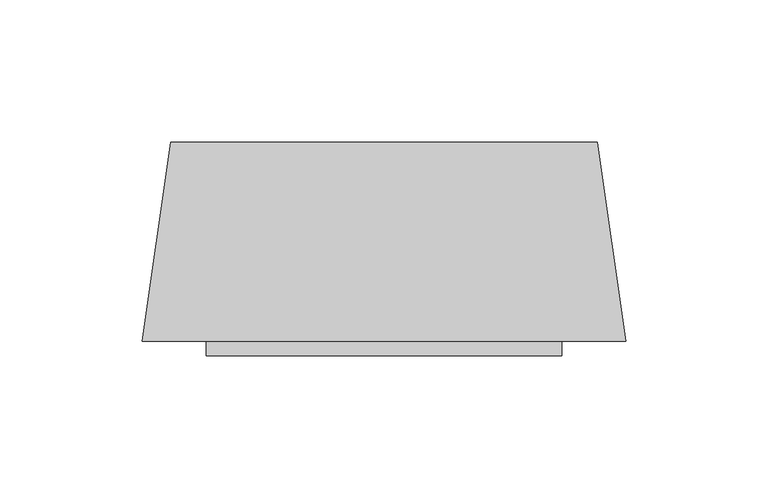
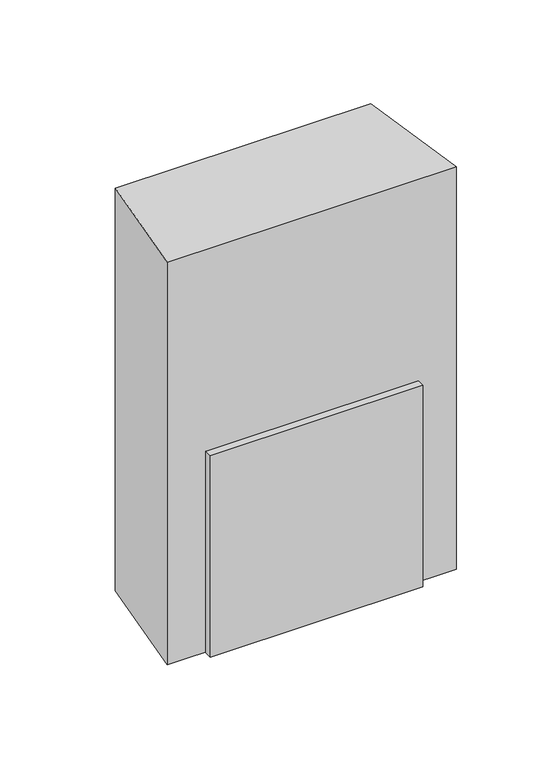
"""IFC4 building model written with IfcOpenShell, lengths in millimetres: switching device geometry, ZYR_06.01 Detector Presència Paret : Detector 90º."""

from ifc_helpers import new_model, si_unit, frame, origin, place, context, project, spatial, polyline, outline, extrude, source, transform, mapped, element, save


def switching_device_13815b3a(model_context):
    return source(origin(), model_context, "Body", "SweptSolid", [
        extrude(outline(polyline([(75.0, 0.0), (84.9975, -70.0), (-84.9975, -70.0), (-75.0, 0.0), (75.0, 0.0)])), frame((0.0, 0.0, -125.0), z_axis=(0.0, 0.0, 1.0), x_axis=(1.0, 0.0, 0.0)), (0.0, 0.0, 1.0), 250.0),
        extrude(outline(polyline([(62.4981618, -75.0), (-62.4981618, -75.0), (-62.4981618, -70.0), (62.4981618, -70.0), (62.4981618, -75.0)])), frame((0.0, 0.0, -125.0), z_axis=(0.0, 0.0, 1.0), x_axis=(1.0, 0.0, 0.0)), (0.0, 0.0, 1.0), 125.0),
    ])


if __name__ == "__main__":
    model = new_model("IFC4")
    model_context = context("Model", 3, world=origin())
    ifc_project = project(units=[si_unit("LENGTHUNIT", "METRE", prefix="MILLI")], contexts=[model_context])
    site = spatial("IfcSite", under=ifc_project)
    building = spatial("IfcBuilding", under=site)
    placement = place(None, origin())
    switching_device_shape = switching_device_13815b3a(model_context)
    element("IfcSwitchingDevice", 1, ObjectType="ZYR_06.01 Detector Presència Paret : Detector 90º", at=placement, inside=building, context=model_context, shape_type="MappedRepresentation", body=[
        mapped(switching_device_shape, transform((0.0, 0.0, 0.0), x_axis=(1.0, 0.0, 0.0), y_axis=(0.0, 1.0, 0.0), z_axis=(0.0, 0.0, 1.0))),
    ])
    save(model, "model.ifc")
